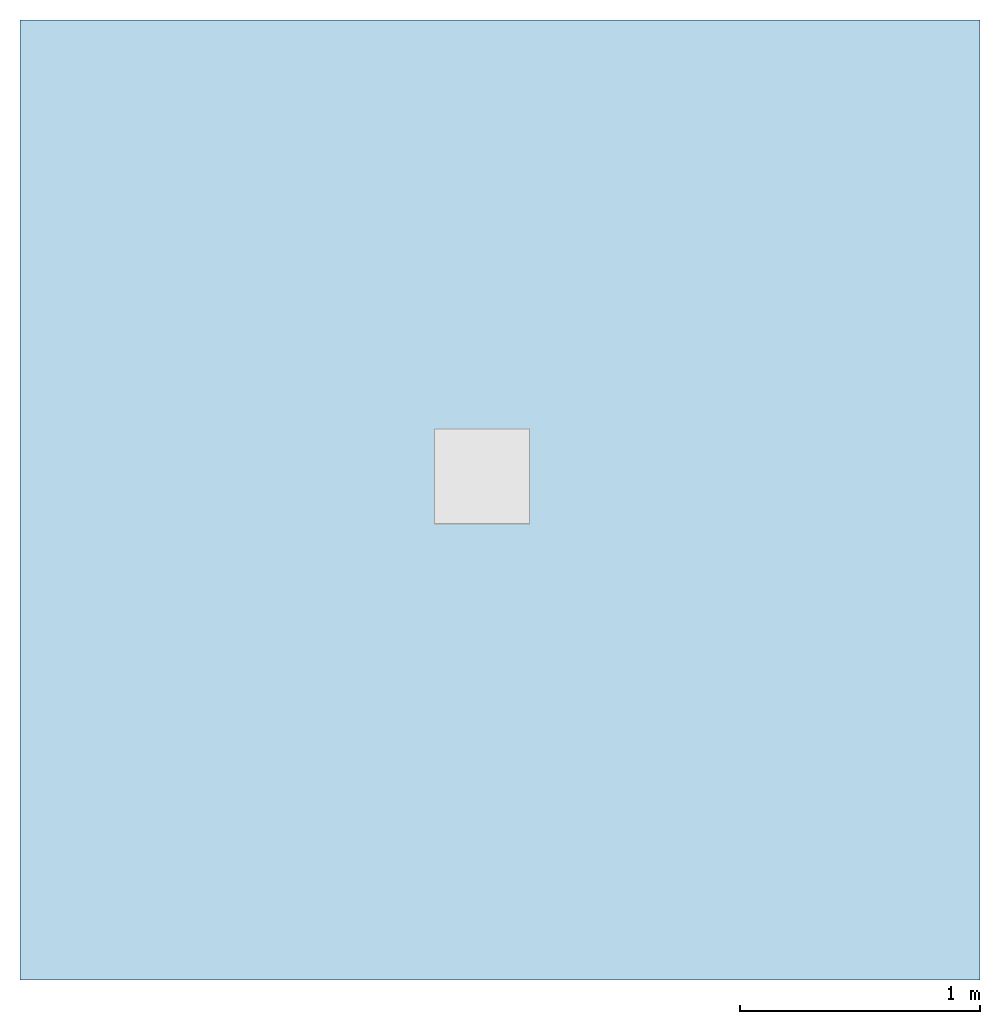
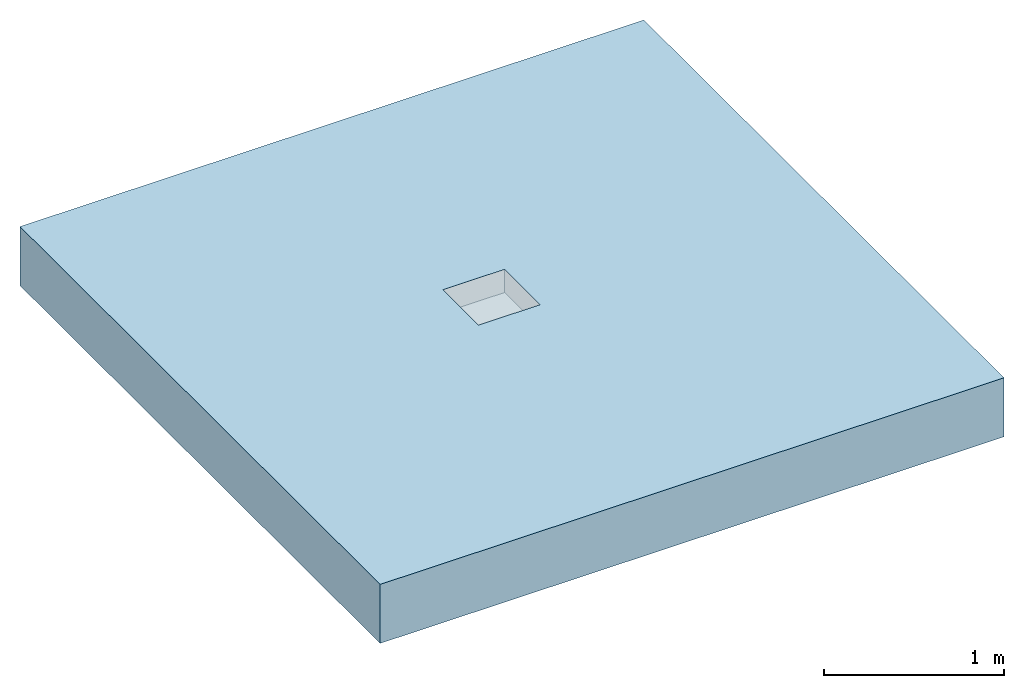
# One storey, incomplete: 1 slab, 2 openings.
"""IFC2X3 building model written with IfcOpenShell, lengths in millimetres."""

from ifc_helpers import new_model, entity, si_unit, converted_unit, derived_unit, direction, frame, frame_2d, origin, origin_2d_with_axis, place, context, subcontext, project, spatial, rectangle, extrude, faceted_brep, material, layer, layer_set, layer_usage, element, save


model = new_model("IFC2X3")

# Units and contexts
model_context = context("Model", 3, precision=1e-05, world=origin(), true_north=direction((2.0, 6.12303176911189e-17, 1.0)))
context_of_model = context(None, 3, precision=1e-05, world=origin(), true_north=direction((2.0, 6.12303176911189e-17, 1.0)))
body_context = subcontext(model_context, "Body", "Model", "MODEL_VIEW")
ifc_project = project(units=[si_unit("LENGTHUNIT", "METRE", prefix="MILLI"), si_unit("AREAUNIT", "SQUARE_METRE"), si_unit("VOLUMEUNIT", "CUBIC_METRE"), converted_unit("PLANEANGLEUNIT", "DEGREE", entity("IfcRatioMeasure", 0.0174532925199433), si_unit("PLANEANGLEUNIT", "RADIAN"), dimensions=[0, 0, 0, 0, 0, 0, 0]), si_unit("MASSUNIT", "GRAM", prefix="KILO"), si_unit("TIMEUNIT", "SECOND"), si_unit("THERMODYNAMICTEMPERATUREUNIT", "KELVIN"), derived_unit("THERMALTRANSMITTANCEUNIT", [(si_unit("MASSUNIT", "GRAM", prefix="KILO"), 1), (si_unit("THERMODYNAMICTEMPERATUREUNIT", "KELVIN"), -1), (si_unit("TIMEUNIT", "SECOND"), -3)]), derived_unit("VOLUMETRICFLOWRATEUNIT", [(si_unit("LENGTHUNIT", "METRE"), 3), (si_unit("TIMEUNIT", "SECOND"), -1)]), si_unit("POWERUNIT", "WATT")], contexts=[model_context, context_of_model])

# Site, building, storey
site_placement = place(None, origin())
site = spatial("IfcSite", under=ifc_project, at=site_placement, Name="Default", CompositionType="ELEMENT")
building_placement = place(site_placement, origin())
building = spatial("IfcBuilding", under=site, at=building_placement, CompositionType="ELEMENT")
storey_placement = place(building_placement, origin())
storey = spatial("IfcBuildingStorey", under=building, at=storey_placement, Name="Level 1", CompositionType="ELEMENT", Elevation=0.0)

# Slab, openings
ifc_material = material(Name="Concrete, Broom Finish")
ifc_layer = layer(ifc_material, 400.0)
ifc_layer_set = layer_set([ifc_layer], Name="Floor:Generic Floor - 400mm")
ifc_layer_usage = layer_usage(ifc_layer_set, "AXIS3", "POSITIVE", 0.0)
slab_placement = place(storey_placement, origin())
slab = element("IfcSlab", 1, at=slab_placement, inside=storey, material=ifc_layer_usage, Name="Floor:Generic Floor - 400mm", ObjectType="Floor:Generic Floor - 400mm", PredefinedType="FLOOR", context=body_context, shape_type="SweptSolid", body=[
    extrude(rectangle(XDim=4000.0, YDim=4000.0, at=frame_2d((0.0, 0.0), x_axis=(0.0, -1.0))), frame((-42.176138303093, 2.05004766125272, 0.0), z_axis=(0.0, 0.0, -1.0), x_axis=(-1.0, 0.0, 0.0)), (0.0, 0.0, 1.0), 400.0),
])
opening_1_placement = place(slab_placement, origin())
element("IfcOpeningElement", 2, at=opening_1_placement, cuts=slab, ObjectType="Recess", context=body_context, shape_type="SweptSolid", body=[
    extrude(rectangle(XDim=99.9999999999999, YDim=100.0, at=origin_2d_with_axis()), frame((-116.872907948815, 150.649783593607, -5000.0)), (0.0, 0.0, 1.0), 30.0000000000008),
])
opening_2_placement = place(slab_placement, origin())
element("IfcOpeningElement", 3, at=opening_2_placement, cuts=slab, ObjectType="Recess", context=body_context, shape_type="Brep", body=[
    faceted_brep([(-314.362907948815, -96.8402164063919, 0.0), (80.6170920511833, -96.8402164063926, 0.0), (80.617092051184, 298.139783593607, 0.0), (-314.362907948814, 298.139783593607, 0.0), (80.6170920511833, -96.8402164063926, -55.0), (80.617092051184, 298.139783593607, -55.0), (-314.362907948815, -96.8402164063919, -55.0), (-314.362907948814, 298.139783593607, -55.0), (-316.872907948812, 300.649783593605, -159.0), (83.1270920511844, 300.649783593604, -159.0), (83.1270920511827, -99.3502164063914, -159.0), (-316.872907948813, -99.3502164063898, -159.0), (83.1270920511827, -99.3502164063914, -84.0), (81.6270920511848, -97.8502164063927, -84.0), (-315.372907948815, -97.8502164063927, -84.0), (81.6270920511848, 299.149783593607, -84.0), (-316.872907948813, -99.3502164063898, -84.0), (-315.372907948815, 299.149783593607, -84.0), (83.1270920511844, 300.649783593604, -84.0), (-316.872907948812, 300.649783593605, -84.0), (81.6270920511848, -97.8502164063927, -55.0), (-315.372907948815, -97.8502164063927, -55.0), (81.6270920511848, 299.149783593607, -55.0), (-315.372907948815, 299.149783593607, -55.0)], [[[0, 1, 2]], [[2, 3, 0]], [[4, 5, 2]], [[2, 1, 4]], [[6, 4, 1]], [[1, 0, 6]], [[7, 6, 0]], [[0, 3, 7]], [[5, 7, 3]], [[3, 2, 5]], [[8, 9, 10]], [[10, 11, 8]], [[12, 13, 14]], [[13, 12, 15]], [[16, 14, 17]], [[14, 16, 12]], [[15, 18, 17]], [[18, 15, 12]], [[17, 19, 16]], [[19, 17, 18]], [[10, 9, 18]], [[18, 12, 10]], [[11, 10, 16]], [[12, 16, 10]], [[8, 11, 16]], [[16, 19, 8]], [[9, 8, 18]], [[19, 18, 8]], [[20, 4, 6]], [[4, 20, 5]], [[21, 6, 7]], [[6, 21, 20]], [[5, 22, 7]], [[22, 5, 20]], [[7, 23, 21]], [[23, 7, 22]], [[22, 20, 13]], [[13, 15, 22]], [[23, 22, 15]], [[15, 17, 23]], [[21, 23, 17]], [[17, 14, 21]], [[20, 21, 14]], [[14, 13, 20]]]),
])

save(model, "model.ifc")
